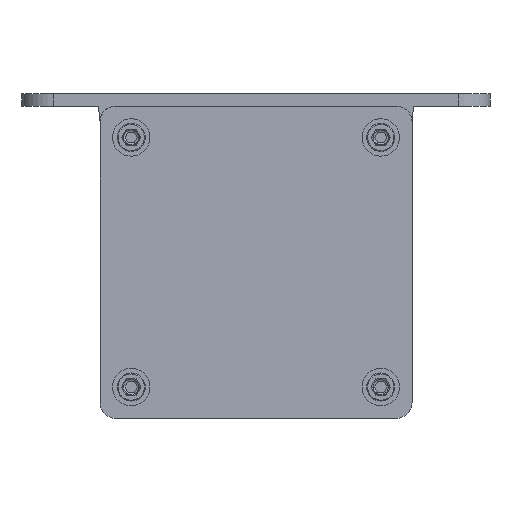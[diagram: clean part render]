
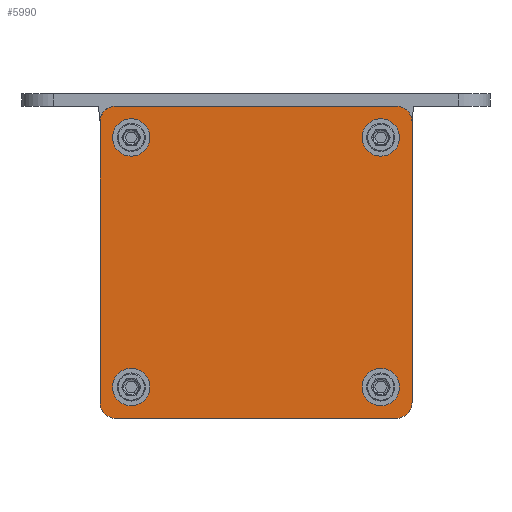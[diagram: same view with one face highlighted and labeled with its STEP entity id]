
A CAD part, front view. The second image highlights one B-rep face of the part: STEP entity #5990.
In plain terms, the highlighted planar face has unit normal (0, -1, 0).
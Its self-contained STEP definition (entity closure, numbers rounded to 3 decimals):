
#2125=CARTESIAN_POINT('',(-45.,-435.5,-45.));
#2126=DIRECTION('',(0.,-1.,0.));
#2127=DIRECTION('',(-1.,0.,0.));
#2128=AXIS2_PLACEMENT_3D('',#2125,#2126,#2127);
#2130=DIRECTION('',(0.,0.,-1.));
#2131=VECTOR('',#2130,90.);
#2132=CARTESIAN_POINT('',(-50.,-435.5,45.));
#2133=LINE('',#2132,#2131);
#2134=CARTESIAN_POINT('',(-45.,-435.5,45.));
#2135=DIRECTION('',(0.,-1.,0.));
#2136=DIRECTION('',(0.,0.,1.));
#2137=AXIS2_PLACEMENT_3D('',#2134,#2135,#2136);
#2139=DIRECTION('',(-1.,0.,0.));
#2140=VECTOR('',#2139,90.);
#2141=CARTESIAN_POINT('',(45.,-435.5,50.));
#2142=LINE('',#2141,#2140);
#2143=CARTESIAN_POINT('',(45.,-435.5,45.));
#2144=DIRECTION('',(0.,-1.,0.));
#2145=DIRECTION('',(1.,0.,0.));
#2146=AXIS2_PLACEMENT_3D('',#2143,#2144,#2145);
#2148=DIRECTION('',(0.,0.,1.));
#2149=VECTOR('',#2148,90.);
#2150=CARTESIAN_POINT('',(50.,-435.5,-45.));
#2151=LINE('',#2150,#2149);
#2152=CARTESIAN_POINT('',(45.,-435.5,-45.));
#2153=DIRECTION('',(0.,-1.,0.));
#2154=DIRECTION('',(0.,0.,-1.));
#2155=AXIS2_PLACEMENT_3D('',#2152,#2153,#2154);
#2157=DIRECTION('',(1.,0.,0.));
#2158=VECTOR('',#2157,90.);
#2159=CARTESIAN_POINT('',(-45.,-435.5,-50.));
#2160=LINE('',#2159,#2158);
#2161=CARTESIAN_POINT('',(-40.,-435.5,-40.));
#2162=DIRECTION('',(0.,-1.,0.));
#2163=DIRECTION('',(0.,0.,1.));
#2164=AXIS2_PLACEMENT_3D('',#2161,#2162,#2163);
#2166=CARTESIAN_POINT('',(-40.,-435.5,-40.));
#2167=DIRECTION('',(0.,-1.,0.));
#2168=DIRECTION('',(0.,0.,-1.));
#2169=AXIS2_PLACEMENT_3D('',#2166,#2167,#2168);
#2171=CARTESIAN_POINT('',(-40.,-435.5,40.));
#2172=DIRECTION('',(0.,-1.,0.));
#2173=DIRECTION('',(0.,0.,1.));
#2174=AXIS2_PLACEMENT_3D('',#2171,#2172,#2173);
#2176=CARTESIAN_POINT('',(-40.,-435.5,40.));
#2177=DIRECTION('',(0.,-1.,0.));
#2178=DIRECTION('',(0.,0.,-1.));
#2179=AXIS2_PLACEMENT_3D('',#2176,#2177,#2178);
#2181=CARTESIAN_POINT('',(40.,-435.5,-40.));
#2182=DIRECTION('',(0.,-1.,0.));
#2183=DIRECTION('',(0.,0.,1.));
#2184=AXIS2_PLACEMENT_3D('',#2181,#2182,#2183);
#2186=CARTESIAN_POINT('',(40.,-435.5,-40.));
#2187=DIRECTION('',(0.,-1.,0.));
#2188=DIRECTION('',(0.,0.,-1.));
#2189=AXIS2_PLACEMENT_3D('',#2186,#2187,#2188);
#2191=CARTESIAN_POINT('',(40.,-435.5,40.));
#2192=DIRECTION('',(0.,-1.,0.));
#2193=DIRECTION('',(0.,0.,1.));
#2194=AXIS2_PLACEMENT_3D('',#2191,#2192,#2193);
#2196=CARTESIAN_POINT('',(40.,-435.5,40.));
#2197=DIRECTION('',(0.,-1.,0.));
#2198=DIRECTION('',(0.,0.,-1.));
#2199=AXIS2_PLACEMENT_3D('',#2196,#2197,#2198);
#2509=CARTESIAN_POINT('',(-50.,-435.5,-45.));
#2510=CARTESIAN_POINT('',(-45.,-435.5,-50.));
#2511=VERTEX_POINT('',#2509);
#2512=VERTEX_POINT('',#2510);
#2513=CARTESIAN_POINT('',(45.,-435.5,-50.));
#2514=VERTEX_POINT('',#2513);
#2515=CARTESIAN_POINT('',(50.,-435.5,-45.));
#2516=VERTEX_POINT('',#2515);
#2517=CARTESIAN_POINT('',(50.,-435.5,45.));
#2518=VERTEX_POINT('',#2517);
#2519=CARTESIAN_POINT('',(45.,-435.5,50.));
#2520=VERTEX_POINT('',#2519);
#2521=CARTESIAN_POINT('',(-45.,-435.5,50.));
#2522=VERTEX_POINT('',#2521);
#2523=CARTESIAN_POINT('',(-50.,-435.5,45.));
#2524=VERTEX_POINT('',#2523);
#2537=CARTESIAN_POINT('',(-40.,-435.5,-36.75));
#2538=CARTESIAN_POINT('',(-40.,-435.5,-43.25));
#2539=VERTEX_POINT('',#2537);
#2540=VERTEX_POINT('',#2538);
#2541=CARTESIAN_POINT('',(-40.,-435.5,43.25));
#2542=CARTESIAN_POINT('',(-40.,-435.5,36.75));
#2543=VERTEX_POINT('',#2541);
#2544=VERTEX_POINT('',#2542);
#2545=CARTESIAN_POINT('',(40.,-435.5,-36.75));
#2546=CARTESIAN_POINT('',(40.,-435.5,-43.25));
#2547=VERTEX_POINT('',#2545);
#2548=VERTEX_POINT('',#2546);
#2549=CARTESIAN_POINT('',(40.,-435.5,43.25));
#2550=CARTESIAN_POINT('',(40.,-435.5,36.75));
#2551=VERTEX_POINT('',#2549);
#2552=VERTEX_POINT('',#2550);
#5945=CARTESIAN_POINT('',(0.,-435.5,0.));
#5946=DIRECTION('',(0.,-1.,0.));
#5947=DIRECTION('',(0.,0.,1.));
#5948=AXIS2_PLACEMENT_3D('',#5945,#5946,#5947);
#5949=PLANE('',#5948);
#5951=ORIENTED_EDGE('',*,*,#5950,.F.);
#5953=ORIENTED_EDGE('',*,*,#5952,.F.);
#5955=ORIENTED_EDGE('',*,*,#5954,.F.);
#5957=ORIENTED_EDGE('',*,*,#5956,.F.);
#5959=ORIENTED_EDGE('',*,*,#5958,.F.);
#5961=ORIENTED_EDGE('',*,*,#5960,.F.);
#5963=ORIENTED_EDGE('',*,*,#5962,.F.);
#5965=ORIENTED_EDGE('',*,*,#5964,.F.);
#5966=EDGE_LOOP('',(#5951,#5953,#5955,#5957,#5959,#5961,#5963,#5965));
#5967=FACE_OUTER_BOUND('',#5966,.F.);
#5968=ORIENTED_EDGE('',*,*,#5925,.T.);
#5969=ORIENTED_EDGE('',*,*,#5939,.T.);
#5970=EDGE_LOOP('',(#5968,#5969));
#5971=FACE_BOUND('',#5970,.F.);
#5973=ORIENTED_EDGE('',*,*,#5972,.T.);
#5975=ORIENTED_EDGE('',*,*,#5974,.T.);
#5976=EDGE_LOOP('',(#5973,#5975));
#5977=FACE_BOUND('',#5976,.F.);
#5979=ORIENTED_EDGE('',*,*,#5978,.T.);
#5981=ORIENTED_EDGE('',*,*,#5980,.T.);
#5982=EDGE_LOOP('',(#5979,#5981));
#5983=FACE_BOUND('',#5982,.F.);
#5985=ORIENTED_EDGE('',*,*,#5984,.T.);
#5987=ORIENTED_EDGE('',*,*,#5986,.T.);
#5988=EDGE_LOOP('',(#5985,#5987));
#5989=FACE_BOUND('',#5988,.F.);
#5990=ADVANCED_FACE('',(#5967,#5971,#5977,#5983,#5989),#5949,.T.);
#2129=CIRCLE('',#2128,5.);
#2138=CIRCLE('',#2137,5.);
#2147=CIRCLE('',#2146,5.);
#2156=CIRCLE('',#2155,5.);
#2165=CIRCLE('',#2164,3.25);
#2170=CIRCLE('',#2169,3.25);
#2175=CIRCLE('',#2174,3.25);
#2180=CIRCLE('',#2179,3.25);
#2185=CIRCLE('',#2184,3.25);
#2190=CIRCLE('',#2189,3.25);
#2195=CIRCLE('',#2194,3.25);
#2200=CIRCLE('',#2199,3.25);
#5925=EDGE_CURVE('',#2539,#2540,#2165,.T.);
#5939=EDGE_CURVE('',#2540,#2539,#2170,.T.);
#5950=EDGE_CURVE('',#2511,#2512,#2129,.T.);
#5952=EDGE_CURVE('',#2524,#2511,#2133,.T.);
#5954=EDGE_CURVE('',#2522,#2524,#2138,.T.);
#5956=EDGE_CURVE('',#2520,#2522,#2142,.T.);
#5958=EDGE_CURVE('',#2518,#2520,#2147,.T.);
#5960=EDGE_CURVE('',#2516,#2518,#2151,.T.);
#5962=EDGE_CURVE('',#2514,#2516,#2156,.T.);
#5964=EDGE_CURVE('',#2512,#2514,#2160,.T.);
#5972=EDGE_CURVE('',#2543,#2544,#2175,.T.);
#5974=EDGE_CURVE('',#2544,#2543,#2180,.T.);
#5978=EDGE_CURVE('',#2547,#2548,#2185,.T.);
#5980=EDGE_CURVE('',#2548,#2547,#2190,.T.);
#5984=EDGE_CURVE('',#2551,#2552,#2195,.T.);
#5986=EDGE_CURVE('',#2552,#2551,#2200,.T.);
